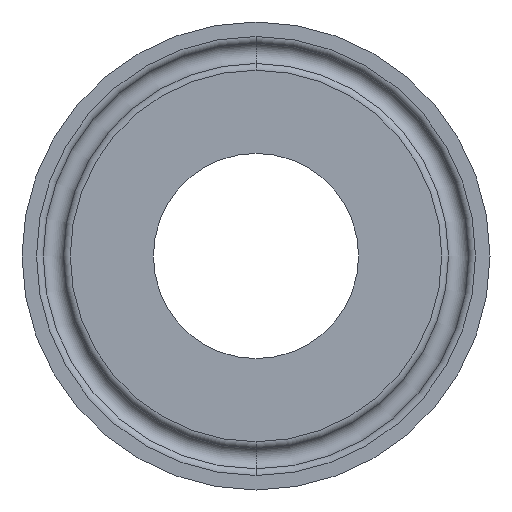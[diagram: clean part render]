
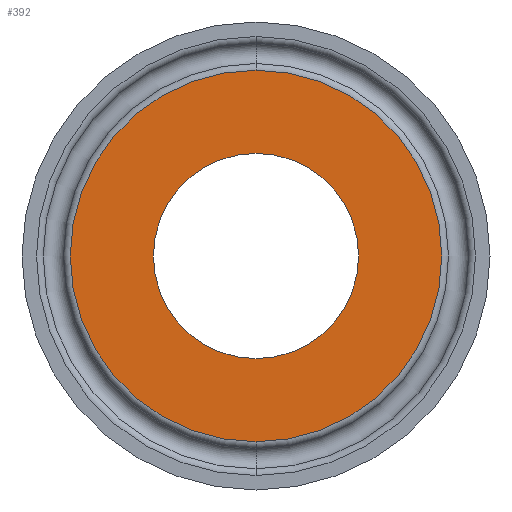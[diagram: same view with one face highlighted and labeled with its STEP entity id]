
A CAD part, front view. The second image highlights one B-rep face of the part: STEP entity #392.
In plain terms, the highlighted planar face has unit normal (0, -1, 0).
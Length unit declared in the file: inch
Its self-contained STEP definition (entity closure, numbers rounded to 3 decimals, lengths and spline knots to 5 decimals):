
#12 = CIRCLE ( 'NONE', #432, 0.435 ) ;
#13 = AXIS2_PLACEMENT_3D ( 'NONE', #386, #370, #367 ) ;
#15 = VERTEX_POINT ( 'NONE', #173 ) ;
#41 = FACE_OUTER_BOUND ( 'NONE', #419, .T. ) ;
#116 = CIRCLE ( 'NONE', #276, 0.78742 ) ;
#123 = CARTESIAN_POINT ( 'NONE',  ( 0., 0., -0.78742 ) ) ;
#126 = CIRCLE ( 'NONE', #441, 0.78742 ) ;
#142 = DIRECTION ( 'NONE',  ( 0., 0., -1. ) ) ;
#144 = DIRECTION ( 'NONE',  ( 0., -1., 0. ) ) ;
#154 = CIRCLE ( 'NONE', #13, 0.435 ) ;
#158 = ORIENTED_EDGE ( 'NONE', *, *, #206, .F. ) ;
#167 = CARTESIAN_POINT ( 'NONE',  ( 0., 0., 0. ) ) ;
#173 = CARTESIAN_POINT ( 'NONE',  ( 0., 0., -0.435 ) ) ;
#206 = EDGE_CURVE ( 'NONE', #410, #15, #154, .T. ) ;
#208 = DIRECTION ( 'NONE',  ( 0., 0., -1. ) ) ;
#213 = DIRECTION ( 'NONE',  ( 0., -1., 0. ) ) ;
#234 = EDGE_CURVE ( 'NONE', #493, #332, #116, .T. ) ;
#238 = CARTESIAN_POINT ( 'NONE',  ( 0., 0., 0. ) ) ;
#239 = CARTESIAN_POINT ( 'NONE',  ( 0., 0., 0.435 ) ) ;
#242 = DIRECTION ( 'NONE',  ( 0., 0., -1. ) ) ;
#271 = EDGE_CURVE ( 'NONE', #332, #493, #126, .T. ) ;
#274 = DIRECTION ( 'NONE',  ( 0., -1., 0. ) ) ;
#276 = AXIS2_PLACEMENT_3D ( 'NONE', #167, #144, #142 ) ;
#277 = CARTESIAN_POINT ( 'NONE',  ( 0., 0., 0. ) ) ;
#280 = CARTESIAN_POINT ( 'NONE',  ( 0., 0., 0.78742 ) ) ;
#283 = EDGE_CURVE ( 'NONE', #15, #410, #12, .T. ) ;
#301 = ORIENTED_EDGE ( 'NONE', *, *, #234, .T. ) ;
#332 = VERTEX_POINT ( 'NONE', #280 ) ;
#341 = DIRECTION ( 'NONE',  ( 0., 0., 1. ) ) ;
#344 = AXIS2_PLACEMENT_3D ( 'NONE', #508, #411, #341 ) ;
#367 = DIRECTION ( 'NONE',  ( 0., 0., -1. ) ) ;
#370 = DIRECTION ( 'NONE',  ( 0., -1., 0. ) ) ;
#386 = CARTESIAN_POINT ( 'NONE',  ( 0., 0., 0. ) ) ;
#392 = ADVANCED_FACE ( 'NONE', ( #447, #41 ), #457, .F. ) ;
#410 = VERTEX_POINT ( 'NONE', #239 ) ;
#411 = DIRECTION ( 'NONE',  ( 0., 1., 0. ) ) ;
#419 = EDGE_LOOP ( 'NONE', ( #301, #528 ) ) ;
#432 = AXIS2_PLACEMENT_3D ( 'NONE', #238, #213, #208 ) ;
#441 = AXIS2_PLACEMENT_3D ( 'NONE', #277, #274, #242 ) ;
#444 = EDGE_LOOP ( 'NONE', ( #503, #158 ) ) ;
#447 = FACE_BOUND ( 'NONE', #444, .T. ) ;
#457 = PLANE ( 'NONE',  #344 ) ;
#493 = VERTEX_POINT ( 'NONE', #123 ) ;
#503 = ORIENTED_EDGE ( 'NONE', *, *, #283, .F. ) ;
#508 = CARTESIAN_POINT ( 'NONE',  ( 0., 0., 0. ) ) ;
#528 = ORIENTED_EDGE ( 'NONE', *, *, #271, .T. ) ;
